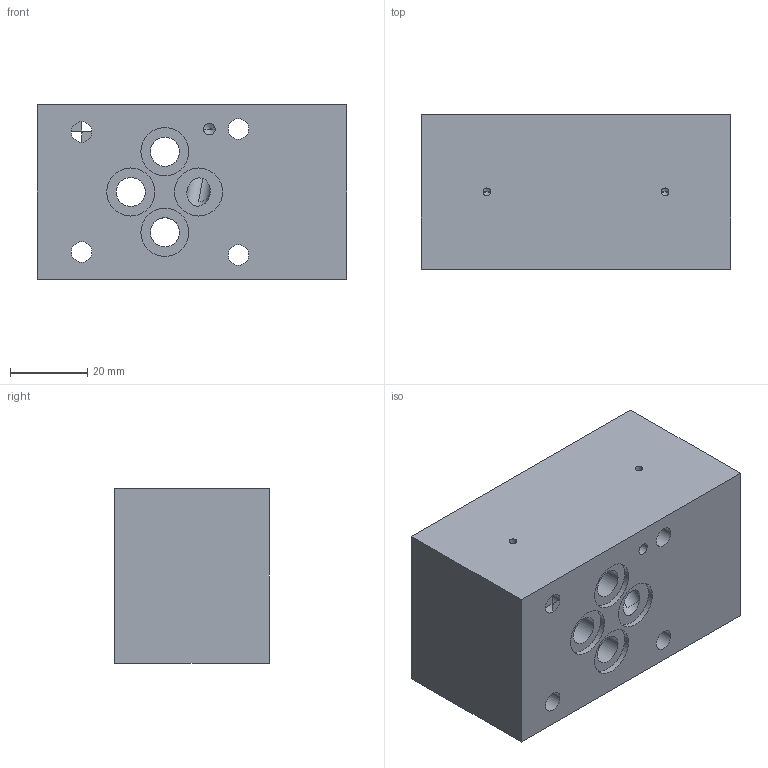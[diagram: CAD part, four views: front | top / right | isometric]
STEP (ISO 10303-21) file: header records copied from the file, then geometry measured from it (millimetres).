
FILE_DESCRIPTION((''),'2;1');
FILE_NAME('20692800','2023-10-12T',('l.soukupova'),(''),'PRO/ENGINEER BY PARAMETRIC TECHNOLOGY CORPORATION, 2015440','PRO/ENGINEER BY PARAMETRIC TECHNOLOGY CORPORATION, 2015440','');
FILE_SCHEMA(('AUTOMOTIVE_DESIGN { 1 0 10303 214 1 1 1 1 }'));
Length unit declared in the file: millimetre
Products named in the file (1): 20692800
Bounding box: 80 x 40 x 45 mm (x, y, z)
Volume: 120652.9 mm3; surface area: 27212.4 mm2
Topology: 1 solids, 4 shells, 99 faces, 395 edges, 363 vertices
Faces by surface type: cylinder 56, cone 29, plane 14
Entity records: 6644 total; most frequent: CARTESIAN_POINT 1573, DIRECTION 709, ORIENTED_EDGE 478, PRESENTATION_STYLE_ASSIGNMENT 473, STYLED_ITEM 432, CURVE_STYLE 429, AXIS2_PLACEMENT_3D 251, EDGE_CURVE 245
